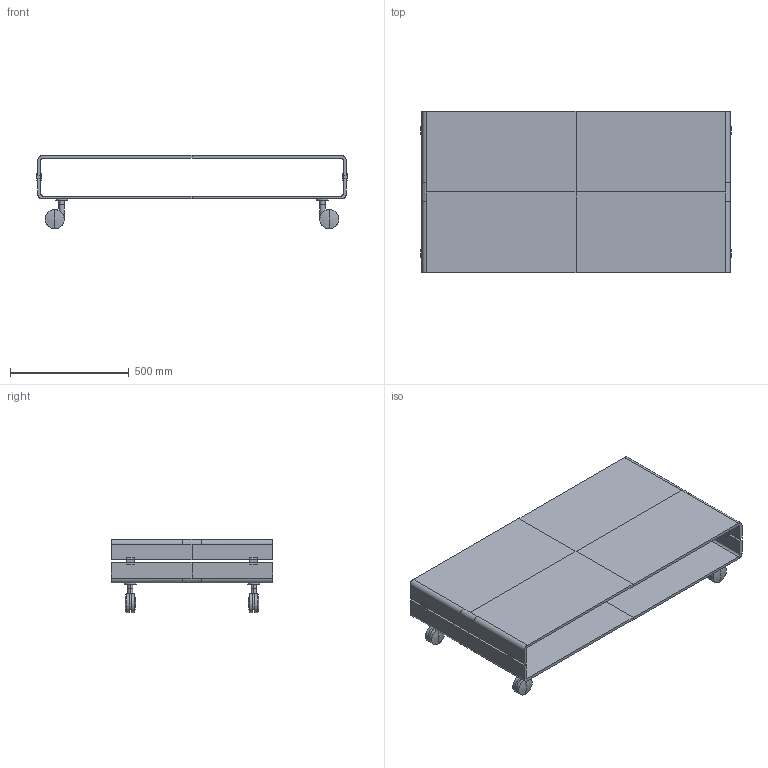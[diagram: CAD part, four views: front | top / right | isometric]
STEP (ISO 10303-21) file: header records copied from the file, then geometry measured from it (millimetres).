
FILE_DESCRIPTION(/* description */ (''),/* implementation_level */ '2;1');
FILE_NAME(/* name */ '203.334 - C&C 130x68 ruote',/* time_stamp */ '2010-11-04T09:54:33+01:00',/* author */ (''),/* organization */ (''),/* preprocessor_version */ 'ST-DEVELOPER v10',/* originating_system */ '',/* authorisation */ '');
FILE_SCHEMA (('CONFIG_CONTROL_DESIGN'));
Length unit declared in the file: centimetre
Products named in the file (1): 1
Bounding box: 1308 x 680 x 309 mm (x, y, z)
Volume: 24474330.8 mm3; surface area: 4326699.4 mm2
Topology: 38 solids, 38 shells, 314 faces, 750 edges, 444 vertices
Faces by surface type: bspline 172, plane 142
Entity records: 8506 total; most frequent: CARTESIAN_POINT 4064, ORIENTED_EDGE 1372, EDGE_CURVE 686, VERTEX_POINT 444, B_SPLINE_CURVE_WITH_KNOTS 406, ADVANCED_FACE 314, FACE_OUTER_BOUND 314, EDGE_LOOP 314
